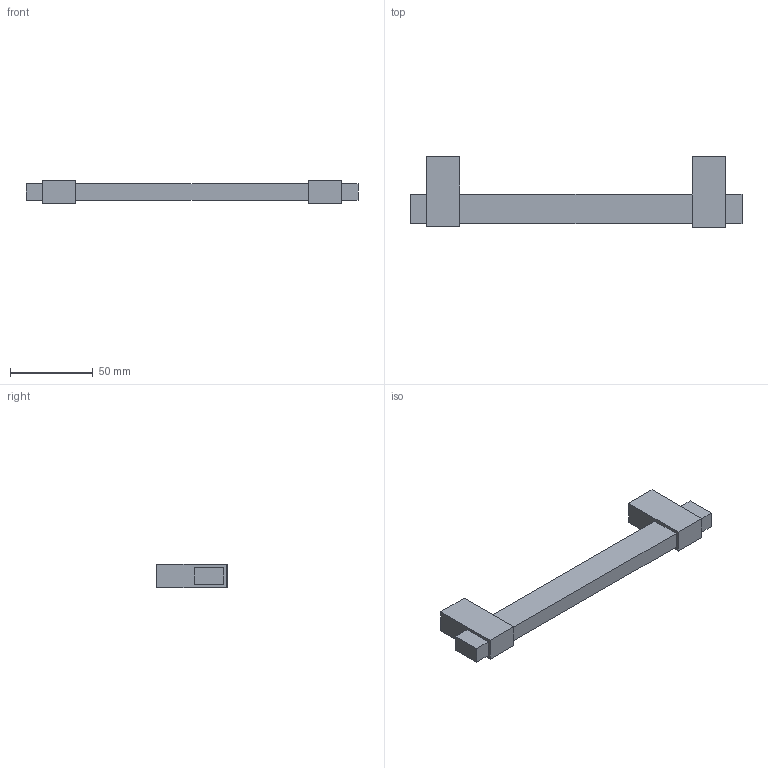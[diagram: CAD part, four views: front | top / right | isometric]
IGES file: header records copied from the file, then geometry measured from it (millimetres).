
Start section: Data from Parasolid IGES Translator 15.0.47, Copyright(c) 2006 Siemens P LM Software. All Rights Reserved.
Global section: file name: 9071820.igs; native system:  By UGS Corp.; preprocessor: XPlus GENERIC/IGES 3.0; author: Noname; organization: Noname; date: 20140122.181148; units: millimetre
Bounding box: 200 x 42.5 x 14 mm (x, y, z)
Surface area: 15667.1 mm2 (no closed solid volume)
Topology: 0 solids, 0 shells, 30 faces, 132 edges, 130 vertices
Faces by surface type: extrusion 28, revolution 2
